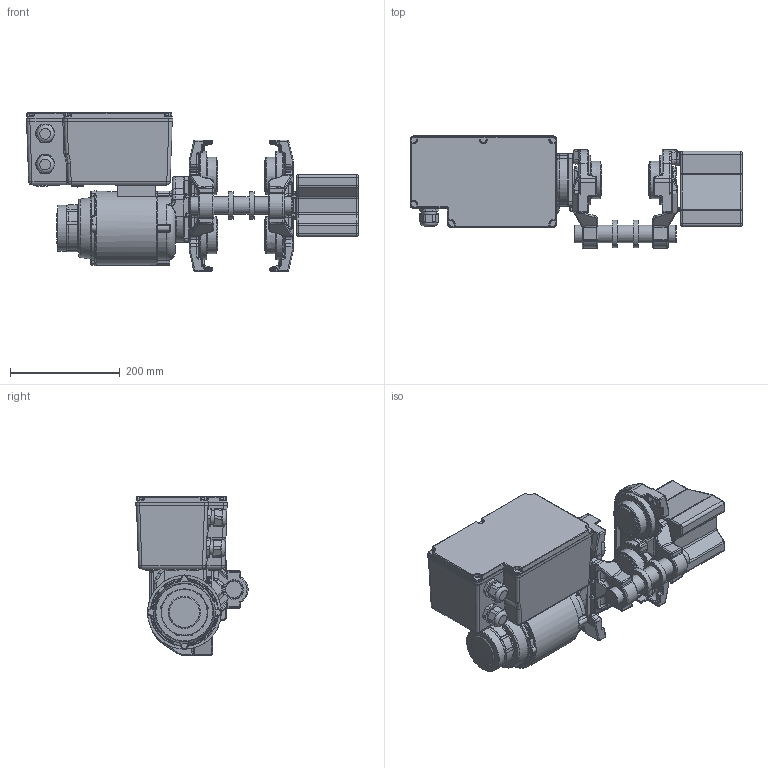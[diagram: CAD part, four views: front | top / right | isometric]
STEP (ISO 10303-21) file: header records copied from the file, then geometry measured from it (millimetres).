
FILE_DESCRIPTION(/* description */ (''),/* implementation_level */ '2;1');
FILE_NAME(/* name */ 'G:\Technik\3D-Dateien light_2015_10_02\Hebezeuge\Fahrwerke\9249.9205.L GMF1250.stp',/* time_stamp */ '2020-07-08T16:24:25+02:00',/* author */ ('gispen'),/* organization */ (''),/* preprocessor_version */ 'ST-DEVELOPER v17.2',/* originating_system */ 'Autodesk Inventor 2019',/* authorisation */ '');
FILE_SCHEMA (('AUTOMOTIVE_DESIGN { 1 0 10303 214 3 1 1 }'));
Products named in the file (5): 9249.9205.L; 9249.9303.L; 9249.9299.L; 9249.9263.L; 9249.9302.L
Assembly tree (5 placements, depth 2):
  9249.9205.L
    9249.9303.L  x2
    9249.9299.L
    9249.9263.L
    9249.9302.L
Bounding box: 603.99 x 204.29 x 288.07 mm (x, y, z)
Volume: 10891263.9 mm3; surface area: 675484.2 mm2
Topology: 5 solids, 5 shells, 2547 faces, 6134 edges, 3549 vertices
Faces by surface type: bspline 792, cylinder 784, plane 513, torus 263, sphere 110, cone 85
Full cylindrical faces by diameter (mm): 14 x4, 19.5 x1, 21 x1, 25 x2, 25.031 x1, 30 x5, 32 x5, 40 x3, 45 x4, 50 x2, 82 x1, 84 x2, 89.4 x4, 115 x1, 134 x1
Entity records: 68489 total; most frequent: CARTESIAN_POINT 28431, ORIENTED_EDGE 8198, DIRECTION 7876, EDGE_CURVE 4099, AXIS2_PLACEMENT_3D 3233, VERTEX_POINT 2435, EDGE_LOOP 1762, FACE_OUTER_BOUND 1711
